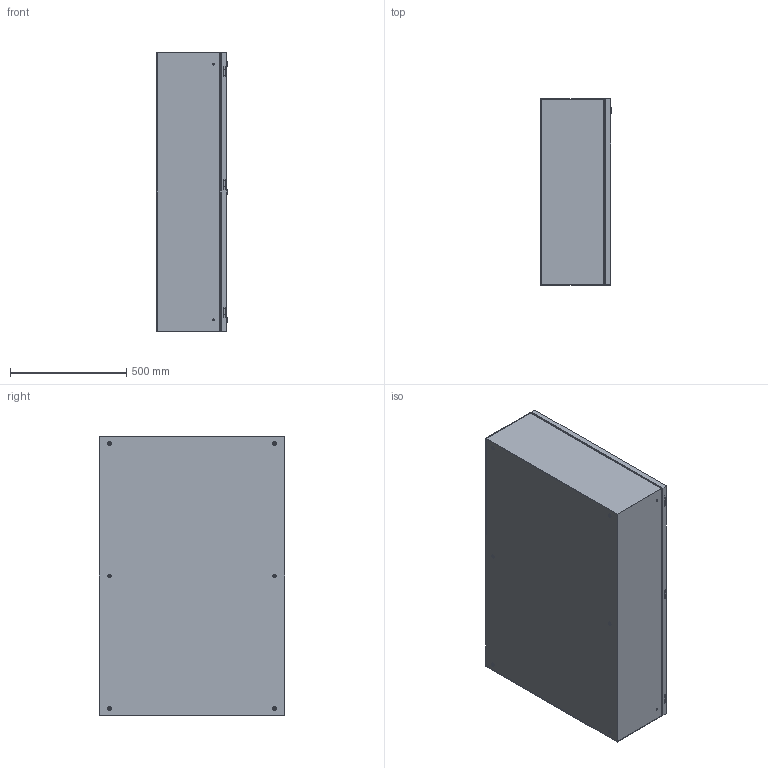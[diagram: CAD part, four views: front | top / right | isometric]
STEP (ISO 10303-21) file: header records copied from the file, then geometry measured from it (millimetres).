
FILE_DESCRIPTION(/* description */ ('Unknown'),/* implementation_level */ '2;1');
FILE_NAME(/* name */ 'CCA08012030',/* time_stamp */ '2024-08-01T16:37:13+02:00',/* author */ ('Unknown'),/* organization */ ('Unknown'),/* preprocessor_version */ 'ST-DEVELOPER v19.4',/* originating_system */ 'Solid Edge',/* authorisation */ 'Unknown');
FILE_SCHEMA (('AUTOMOTIVE_DESIGN {1 0 10303 214 3 1 1}'));
Length unit declared in the file: millimetre
Products named in the file (16): CCA08012030; C000X000.61_oa_0; C000X000.62_oa_1; C0000000.56; C0000000.02; AE00989.09; AE00198.02; AE00417.01; C000X000.60_oa_2; C0000000.44; C0000000.04; C0000000.05; AE00316.01; AE00601.01; AE00891.02; C0000000.01
Assembly tree (47 placements, depth 4):
  CCA08012030
    C000X000.61_oa_0
      C000X000.62_oa_1
        C0000000.56
      C0000000.02  x3
      AE00989.09  x3
      AE00198.02  x3
      AE00417.01  x2
    AE00198.02  x3
    C000X000.60_oa_2
      C0000000.44
      C0000000.04  x6
      C0000000.05  x6
      AE00316.01  x3
      AE00601.01  x3
      AE00891.02  x3
      C0000000.01  x3
      AE00417.01  x4
Bounding box: 305 x 800 x 1200 mm (x, y, z)
Volume: 5907183 mm3; surface area: 6406454.5 mm2
Topology: 47 solids, 47 shells, 947 faces, 2313 edges, 1504 vertices
Faces by surface type: plane 613, cylinder 235, cone 51, torus 48
Full cylindrical faces by diameter (mm): 4 x3, 4.917 x9, 4.918 x3, 5.4 x3, 6 x18, 6.4 x3, 7.5 x6, 8 x6, 8.376 x12, 10 x9, 10.25 x6, 10.5 x6, 11 x3, 13.6 x3, 14 x6, 15 x6, 16 x6, 16.3 x3, 19.5 x3, 28 x3
Entity records: 11952 total; most frequent: CARTESIAN_POINT 1843, DIRECTION 1776, ORIENTED_EDGE 1620, EDGE_CURVE 810, AXIS2_PLACEMENT_3D 598, LINE 580, VECTOR 580, VERTEX_POINT 556
